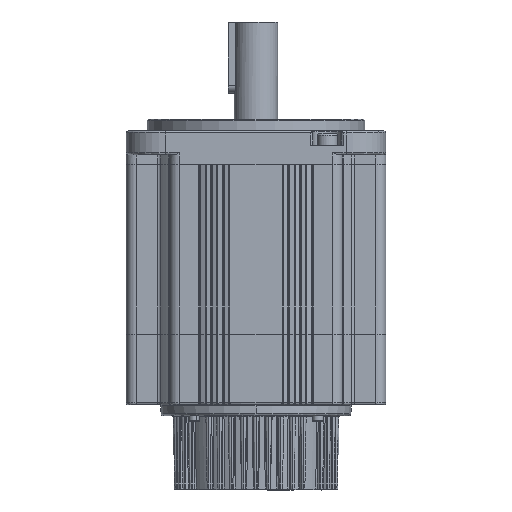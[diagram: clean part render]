
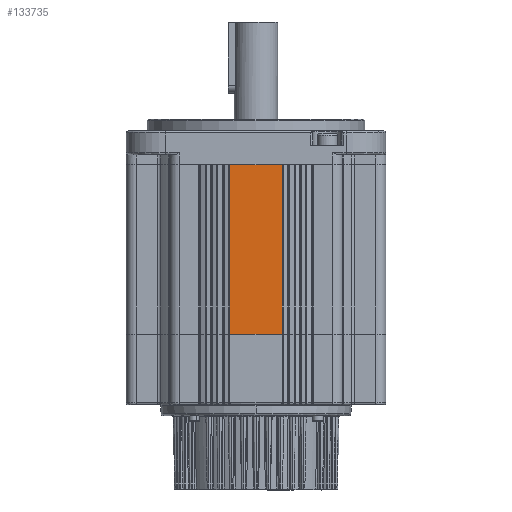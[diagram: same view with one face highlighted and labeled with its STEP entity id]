
A CAD part, front view. The second image highlights one B-rep face of the part: STEP entity #133735.
In plain terms, the highlighted planar face has unit normal (0, -1, 0).
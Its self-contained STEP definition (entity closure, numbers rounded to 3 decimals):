
#5313 = DIRECTION ( 'NONE',  ( 1., 0., 0. ) ) ;
#5894 = CARTESIAN_POINT ( 'NONE',  ( 13.5, -65.5, 0. ) ) ;
#7049 = PLANE ( 'NONE',  #82222 ) ;
#18037 = CARTESIAN_POINT ( 'NONE',  ( -13.2, -65.5, 0. ) ) ;
#18323 = DIRECTION ( 'NONE',  ( 1., 0., 0. ) ) ;
#20856 = CARTESIAN_POINT ( 'NONE',  ( 13.2, -65.5, 85.5 ) ) ;
#21324 = VECTOR ( 'NONE', #18323, 1000. ) ;
#23158 = EDGE_CURVE ( 'NONE', #29461, #63080, #59105, .T. ) ;
#27540 = CARTESIAN_POINT ( 'NONE',  ( -13.2, -65.5, 85.5 ) ) ;
#29461 = VERTEX_POINT ( 'NONE', #56809 ) ;
#31906 = EDGE_CURVE ( 'NONE', #80628, #29461, #78888, .T. ) ;
#34140 = DIRECTION ( 'NONE',  ( 0., 0., -1. ) ) ;
#44464 = VECTOR ( 'NONE', #34140, 1000. ) ;
#49455 = ORIENTED_EDGE ( 'NONE', *, *, #23158, .T. ) ;
#56809 = CARTESIAN_POINT ( 'NONE',  ( 13.2, -65.5, 0. ) ) ;
#59105 = LINE ( 'NONE', #71166, #84864 ) ;
#63080 = VERTEX_POINT ( 'NONE', #20856 ) ;
#65546 = CARTESIAN_POINT ( 'NONE',  ( 13.5, -65.5, 85.5 ) ) ;
#65718 = CARTESIAN_POINT ( 'NONE',  ( 13.5, -65.5, 85.5 ) ) ;
#67477 = CARTESIAN_POINT ( 'NONE',  ( -13.2, -65.5, 85.5 ) ) ;
#67517 = EDGE_LOOP ( 'NONE', ( #149586, #49455, #99893, #144257 ) ) ;
#71166 = CARTESIAN_POINT ( 'NONE',  ( 13.2, -65.5, 85.5 ) ) ;
#76082 = LINE ( 'NONE', #67477, #44464 ) ;
#78888 = LINE ( 'NONE', #5894, #21324 ) ;
#80628 = VERTEX_POINT ( 'NONE', #18037 ) ;
#82222 = AXIS2_PLACEMENT_3D ( 'NONE', #65718, #126207, #151149 ) ;
#84102 = DIRECTION ( 'NONE',  ( 0., 0., 1. ) ) ;
#84864 = VECTOR ( 'NONE', #84102, 1000. ) ;
#88384 = LINE ( 'NONE', #65546, #144320 ) ;
#99893 = ORIENTED_EDGE ( 'NONE', *, *, #134278, .F. ) ;
#109184 = FACE_OUTER_BOUND ( 'NONE', #67517, .T. ) ;
#125135 = VERTEX_POINT ( 'NONE', #27540 ) ;
#125407 = EDGE_CURVE ( 'NONE', #125135, #80628, #76082, .T. ) ;
#126207 = DIRECTION ( 'NONE',  ( 0., 1., 0. ) ) ;
#133735 = ADVANCED_FACE ( 'NONE', ( #109184 ), #7049, .F. ) ;
#134278 = EDGE_CURVE ( 'NONE', #125135, #63080, #88384, .T. ) ;
#144257 = ORIENTED_EDGE ( 'NONE', *, *, #125407, .T. ) ;
#144320 = VECTOR ( 'NONE', #5313, 1000. ) ;
#149586 = ORIENTED_EDGE ( 'NONE', *, *, #31906, .T. ) ;
#151149 = DIRECTION ( 'NONE',  ( 0., 0., 1. ) ) ;
